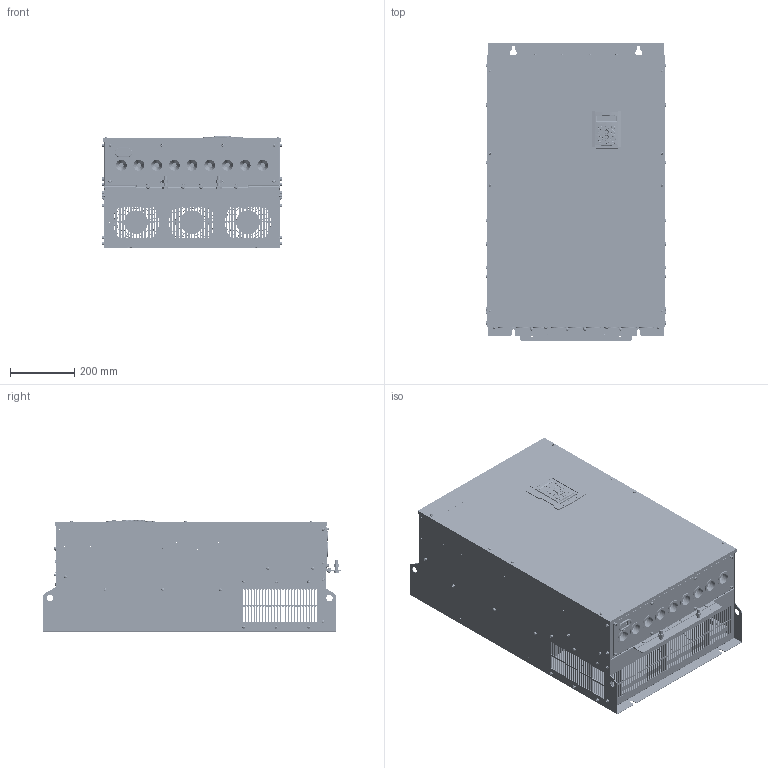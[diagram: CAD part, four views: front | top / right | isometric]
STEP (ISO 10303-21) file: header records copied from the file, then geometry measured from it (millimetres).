
FILE_DESCRIPTION(/* description */ ('','CAx-IF Rec.Pracs.---Representation and Presentation of Product Manufacturing Information (PMI)---4.0---2014-10-13'),/* implementation_level */ '2;1');
FILE_NAME(/* name */ 'C:\Users\943103\Desktop\Part17.stp',/* time_stamp */ '2023-09-20T19:16:35+01:00',/* author */ ('943103'),/* organization */ (''),/* preprocessor_version */ 'ST-DEVELOPER v18',/* originating_system */ 'Autodesk Inventor 2020',/* authorisation */ '');
FILE_SCHEMA (('AP242_MANAGED_MODEL_BASED_3D_ENGINEERING_MIM_LF { 1 0 10303 442 1 1 4 }'));
Products named in the file (1): Part17
Bounding box: 561.86 x 925 x 349.12 mm (x, y, z)
Surface area: 16537026.7 mm2 (no closed solid volume)
Topology: 0 solids, 1 shells, 30111 faces, 84304 edges, 55556 vertices
Faces by surface type: plane 20347, cylinder 4832, bspline 3598, cone 841, torus 361, sphere 132
Full cylindrical faces by diameter (mm): 0.6 x5, 0.74 x8, 0.812 x2, 0.994 x9, 1 x20, 1.1 x86, 1.4 x12, 1.45 x20, 1.5 x29, 1.8 x22, 2 x27, 2.18 x44, 2.2 x17, 2.35 x111, 2.5 x8, 2.6 x4, 2.8 x20, 2.9 x23, 3 x113, 3.1 x6, 3.2 x11, 3.286 x2, 3.5 x3, 3.6 x1, 3.68 x22, 3.9 x1, 4 x231, 4.4 x22, 4.5 x7, 4.6 x82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
Entity records: 1199646 total; most frequent: CARTESIAN_POINT 400281, ORIENTED_EDGE 168318, DIRECTION 148228, EDGE_CURVE 84159, LINE 58346, VECTOR 58346, VERTEX_POINT 55572, AXIS2_PLACEMENT_3D 44941
